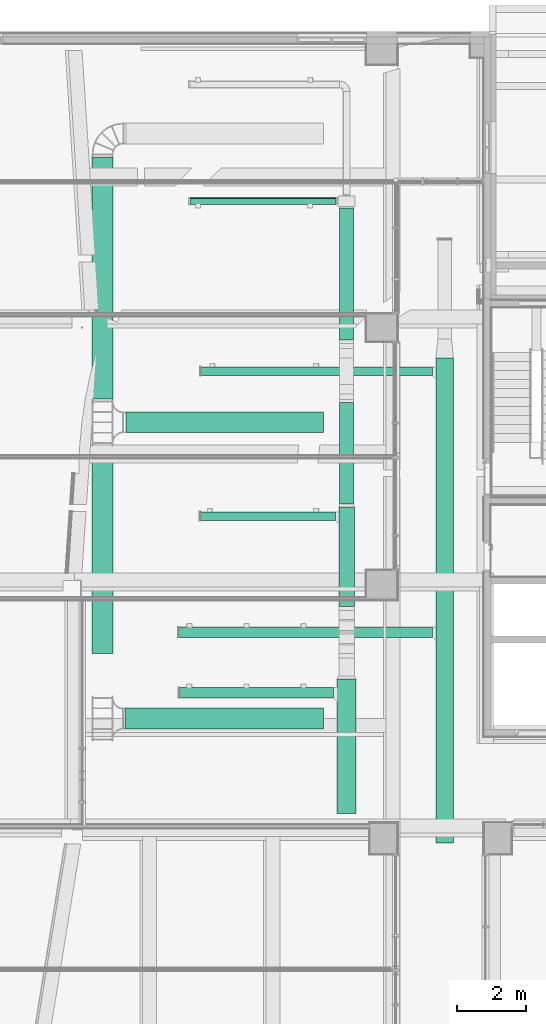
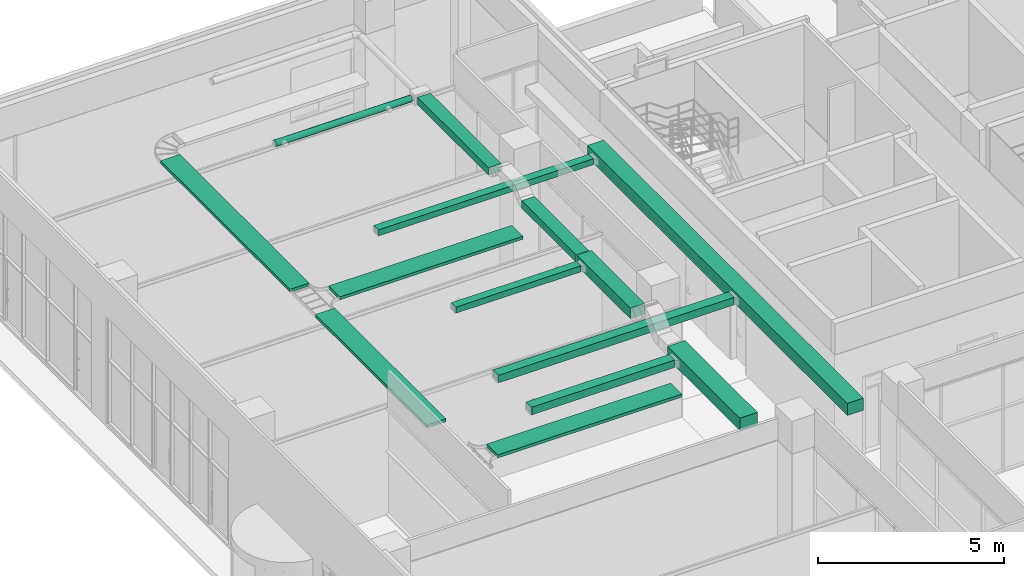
# One storey, part 86 of 100: 14 flow segments.
"""IFC2X3 building model written with IfcOpenShell, lengths in millimetres."""

from ifc_helpers import new_model, entity, si_unit, converted_unit, derived_unit, direction, frame, frame_2d, origin, origin_2d_with_axis, place, context, subcontext, project, spatial, rectangle, circle, extrude, type_object, element, save


model = new_model("IFC2X3")

# Units and contexts
model_context = context("Model", 3, precision=0.01, world=origin(), true_north=direction((6.123031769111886e-17, 1.0)))
body_context = subcontext(model_context, "Body", "Model", "MODEL_VIEW")
ifc_project = project(units=[si_unit("LENGTHUNIT", "METRE", prefix="MILLI"), si_unit("AREAUNIT", "SQUARE_METRE"), si_unit("VOLUMEUNIT", "CUBIC_METRE"), converted_unit("PLANEANGLEUNIT", "DEGREE", entity("IfcRatioMeasure", 0.017453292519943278), si_unit("PLANEANGLEUNIT", "RADIAN"), dimensions=[0, 0, 0, 0, 0, 0, 0]), si_unit("MASSUNIT", "GRAM", prefix="KILO"), derived_unit("MASSDENSITYUNIT", [(si_unit("MASSUNIT", "GRAM", prefix="KILO"), 1), (si_unit("LENGTHUNIT", "METRE"), -3)]), derived_unit("MOMENTOFINERTIAUNIT", [(si_unit("LENGTHUNIT", "METRE"), 4)]), si_unit("TIMEUNIT", "SECOND"), si_unit("FREQUENCYUNIT", "HERTZ"), si_unit("THERMODYNAMICTEMPERATUREUNIT", "DEGREE_CELSIUS"), derived_unit("THERMALTRANSMITTANCEUNIT", [(si_unit("MASSUNIT", "GRAM", prefix="KILO"), 1), (si_unit("THERMODYNAMICTEMPERATUREUNIT", "KELVIN"), -1), (si_unit("TIMEUNIT", "SECOND"), -3)]), derived_unit("VOLUMETRICFLOWRATEUNIT", [(si_unit("LENGTHUNIT", "METRE"), 3), (si_unit("TIMEUNIT", "SECOND"), -1)]), derived_unit("MASSFLOWRATEUNIT", [(si_unit("MASSUNIT", "GRAM", prefix="KILO"), 1), (si_unit("TIMEUNIT", "SECOND"), -1)]), derived_unit("ROTATIONALFREQUENCYUNIT", [(si_unit("TIMEUNIT", "SECOND"), -1)]), si_unit("ELECTRICCURRENTUNIT", "AMPERE"), si_unit("ELECTRICVOLTAGEUNIT", "VOLT"), si_unit("POWERUNIT", "WATT"), si_unit("FORCEUNIT", "NEWTON", prefix="KILO"), si_unit("ILLUMINANCEUNIT", "LUX"), si_unit("LUMINOUSFLUXUNIT", "LUMEN"), si_unit("LUMINOUSINTENSITYUNIT", "CANDELA"), derived_unit("USERDEFINED", [(si_unit("MASSUNIT", "GRAM", prefix="KILO"), -1), (si_unit("LENGTHUNIT", "METRE"), -2), (si_unit("TIMEUNIT", "SECOND"), 3), (si_unit("LUMINOUSFLUXUNIT", "LUMEN"), 1)]), derived_unit("SOUNDPOWERUNIT", [(si_unit("MASSUNIT", "GRAM", prefix="KILO"), 1), (si_unit("LENGTHUNIT", "METRE"), 2), (si_unit("TIMEUNIT", "SECOND"), -3)]), derived_unit("SOUNDPRESSUREUNIT", [(si_unit("MASSUNIT", "GRAM", prefix="KILO"), 1), (si_unit("LENGTHUNIT", "METRE"), -1), (si_unit("TIMEUNIT", "SECOND"), -2)]), derived_unit("LINEARVELOCITYUNIT", [(si_unit("LENGTHUNIT", "METRE"), 1), (si_unit("TIMEUNIT", "SECOND"), -1)]), si_unit("PRESSUREUNIT", "PASCAL"), derived_unit("USERDEFINED", [(si_unit("LENGTHUNIT", "METRE"), -2), (si_unit("MASSUNIT", "GRAM", prefix="KILO"), 1), (si_unit("TIMEUNIT", "SECOND"), -2)]), derived_unit("LINEARFORCEUNIT", [(si_unit("MASSUNIT", "GRAM", prefix="KILO"), 1), (si_unit("LENGTHUNIT", "METRE"), 1), (si_unit("TIMEUNIT", "SECOND"), -2), (si_unit("LENGTHUNIT", "METRE"), -1)]), derived_unit("PLANARFORCEUNIT", [(si_unit("MASSUNIT", "GRAM", prefix="KILO"), 1), (si_unit("LENGTHUNIT", "METRE"), 1), (si_unit("TIMEUNIT", "SECOND"), -2), (si_unit("LENGTHUNIT", "METRE"), -2)])], contexts=[model_context])

# Site, building, storey
site_placement = place(None, frame((-14167.972527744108, -657.2125860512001, 0.0)))
site = spatial("IfcSite", under=ifc_project, at=site_placement, Name="Default", CompositionType="ELEMENT")
building_placement = place(site_placement, origin())
building = spatial("IfcBuilding", under=site, at=building_placement, Name="Sample Building", CompositionType="ELEMENT")
storey_placement = place(building_placement, origin())
storey = spatial("IfcBuildingStorey", under=building, at=storey_placement, Name="지상 1층", CompositionType="ELEMENT", Elevation=0.0)

# Flow segments
duct_segment_type_1 = type_object("IfcDuctSegmentType", Name="직사각형 덕트:SA", PredefinedType="NOTDEFINED")
flow_segment_1_placement = place(storey_placement, origin())
element("IfcFlowSegment", 1, at=flow_segment_1_placement, inside=storey, type_object=duct_segment_type_1, Name="직사각형 덕트:SA", ObjectType="직사각형 덕트:SA", context=body_context, shape_type="SweptSolid", body=[
    extrude(rectangle(XDim=13992.423454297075, YDim=499.999999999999, at=frame_2d((9.094947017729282e-13, 2.1742607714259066e-12), x_axis=(1.0, 0.0))), frame((28932.150815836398, 19482.716559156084, 3980.0), z_axis=(0.0, 0.0, 1.0), x_axis=(0.0, 1.0, 0.0)), (0.0, 0.0, 1.0), 400.0),
])
flow_segment_2_placement = place(storey_placement, origin())
element("IfcFlowSegment", 2, at=flow_segment_2_placement, inside=storey, type_object=duct_segment_type_1, Name="직사각형 덕트:SA", ObjectType="직사각형 덕트:SA", context=body_context, shape_type="SweptSolid", body=[
    extrude(rectangle(XDim=7323.843194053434, YDim=299.9999999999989, at=origin_2d_with_axis()), frame((24920.229218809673, 18565.840365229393, 4055.0), z_axis=(0.0, 0.0, 1.0), x_axis=(-1.0, 0.0, 0.0)), (0.0, 0.0, 1.0), 250.00000000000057),
])
flow_segment_3_placement = place(storey_placement, origin())
element("IfcFlowSegment", 3, at=flow_segment_3_placement, inside=storey, type_object=duct_segment_type_1, Name="직사각형 덕트:SA", ObjectType="직사각형 덕트:SA", context=body_context, shape_type="SweptSolid", body=[
    extrude(rectangle(XDim=6687.500691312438, YDim=249.9999999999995, at=origin_2d_with_axis()), frame((25238.40047018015, 26102.051180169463, 4080.0), z_axis=(0.0, 0.0, 1.0), x_axis=(-1.0, 0.0, 0.0)), (0.0, 0.0, 1.0), 200.0),
])
duct_segment_type_2 = type_object("IfcDuctSegmentType", Name="직사각형 덕트:RA", PredefinedType="NOTDEFINED")
flow_segment_4_placement = place(storey_placement, origin())
element("IfcFlowSegment", 4, at=flow_segment_4_placement, inside=storey, type_object=duct_segment_type_2, Name="직사각형 덕트:RA", ObjectType="직사각형 덕트:RA", context=body_context, shape_type="SweptSolid", body=[
    extrude(rectangle(XDim=3892.4234542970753, YDim=550.0000000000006, at=frame_2d((-1.0231815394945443e-12, -2.1600499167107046e-12), x_axis=(1.0, 0.0))), frame((26099.510782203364, 15277.891987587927, 3980.0), z_axis=(0.0, 0.0, 1.0), x_axis=(0.0, 1.0, 0.0)), (0.0, 0.0, 1.0), 400.0),
])
flow_segment_5_placement = place(storey_placement, origin())
element("IfcFlowSegment", 5, at=flow_segment_5_placement, inside=storey, type_object=duct_segment_type_2, Name="직사각형 덕트:RA", ObjectType="직사각형 덕트:RA", context=body_context, shape_type="SweptSolid", body=[
    extrude(rectangle(XDim=2874.089844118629, YDim=450.00000000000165, at=frame_2d((0.0, 2.1600499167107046e-12), x_axis=(1.0, 0.0))), frame((26099.51078220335, 20748.990145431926, 4005.0), z_axis=(0.0, 0.0, 1.0), x_axis=(0.0, 1.0, 0.0)), (0.0, 0.0, 1.0), 349.9999999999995),
])
flow_segment_6_placement = place(storey_placement, origin())
element("IfcFlowSegment", 6, at=flow_segment_6_placement, inside=storey, type_object=duct_segment_type_2, Name="직사각형 덕트:RA", ObjectType="직사각형 덕트:RA", context=body_context, shape_type="SweptSolid", body=[
    extrude(rectangle(XDim=3815.282108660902, YDim=400.0, at=origin_2d_with_axis()), frame((26099.510782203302, 28905.65919739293, 4055.0), z_axis=(0.0, 0.0, 1.0), x_axis=(0.0, 1.0, 0.0)), (0.0, 0.0, 1.0), 249.9999999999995),
])
flow_segment_7_placement = place(storey_placement, origin())
element("IfcFlowSegment", 7, at=flow_segment_7_placement, inside=storey, type_object=duct_segment_type_2, Name="직사각형 덕트:RA", ObjectType="직사각형 덕트:RA", context=body_context, shape_type="SweptSolid", body=[
    extrude(rectangle(XDim=4441.203160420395, YDim=299.9999999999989, at=origin_2d_with_axis()), frame((23503.909201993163, 16819.497029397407, 4055.0), z_axis=(0.0, 0.0, 1.0), x_axis=(-1.0, 0.0, 0.0)), (0.0, 0.0, 1.0), 249.9999999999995),
])
flow_segment_8_placement = place(storey_placement, origin())
element("IfcFlowSegment", 8, at=flow_segment_8_placement, inside=storey, type_object=duct_segment_type_2, Name="직사각형 덕트:RA", ObjectType="직사각형 덕트:RA", context=body_context, shape_type="SweptSolid", body=[
    extrude(rectangle(XDim=3892.3599663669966, YDim=249.9999999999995, at=frame_2d((0.0, 2.1671553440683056e-12), x_axis=(1.0, 0.0))), frame((23828.33079901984, 21915.8624365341, 4080.0), z_axis=(0.0, 0.0, 1.0), x_axis=(-1.0, 0.0, 0.0)), (0.0, 0.0, 1.0), 200.0),
])
flow_segment_9_placement = place(storey_placement, origin())
element("IfcFlowSegment", 9, at=flow_segment_9_placement, inside=storey, type_object=duct_segment_type_2, Name="직사각형 덕트:RA", ObjectType="직사각형 덕트:RA", context=body_context, shape_type="SweptSolid", body=[
    extrude(rectangle(XDim=2933.4466094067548, YDim=400.0, at=frame_2d((-2.1600499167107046e-12, 0.0), x_axis=(1.0, 0.0))), frame((26099.510782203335, 23739.36091257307, 4055.0), z_axis=(0.0, 0.0, 1.0), x_axis=(0.0, 1.0, 0.0)), (0.0, 0.0, 1.0), 249.9999999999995),
])
duct_segment_type_3 = type_object("IfcDuctSegmentType", Name="원형 덕트:RA", PredefinedType="NOTDEFINED")
flow_segment_10_placement = place(storey_placement, origin())
element("IfcFlowSegment", 10, at=flow_segment_10_placement, inside=storey, type_object=duct_segment_type_3, Name="원형 덕트:RA", ObjectType="원형 덕트:RA", context=body_context, shape_type="SweptSolid", body=[
    extrude(circle(Radius=100.0, at=frame_2d((8.662937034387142e-12, 0.0), x_axis=(1.0, 0.0))), frame((21572.762519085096, 31013.300251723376, 4180.0), z_axis=(1.0, 0.0, 0.0), x_axis=(0.0, 1.0, 0.0)), (0.0, 0.0, 1.0), 4226.748263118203),
])
cable_carrier_segment_type = type_object("IfcCableCarrierSegmentType", Name="부속이 있는 케이블 트레이:Ladder Cable Tray", PredefinedType="CABLETRAYSEGMENT")
flow_segment_11_placement = place(storey_placement, origin())
element("IfcFlowSegment", 11, at=flow_segment_11_placement, inside=storey, type_object=cable_carrier_segment_type, Name="부속이 있는 케이블 트레이:Ladder Cable Tray", ObjectType="부속이 있는 케이블 트레이:Ladder Cable Tray", context=body_context, shape_type="SweptSolid", body=[
    extrude(rectangle(XDim=6975.7928327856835, YDim=599.9999999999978, at=frame_2d((-4.320099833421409e-12, 0.0), x_axis=(1.0, 0.0))), frame((19055.729758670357, 28796.824702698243, 3730.0), z_axis=(0.0, 0.0, 1.0), x_axis=(0.0, 1.0, 0.0)), (0.0, 0.0, 1.0), 100.00000000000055),
])
flow_segment_12_placement = place(storey_placement, origin())
element("IfcFlowSegment", 12, at=flow_segment_12_placement, inside=storey, type_object=cable_carrier_segment_type, Name="부속이 있는 케이블 트레이:Ladder Cable Tray", ObjectType="부속이 있는 케이블 트레이:Ladder Cable Tray", context=body_context, shape_type="SweptSolid", body=[
    extrude(rectangle(XDim=5699.171141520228, YDim=600.0000000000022, at=frame_2d((2.2737367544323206e-12, 0.0), x_axis=(1.0, 0.0))), frame((22585.31532943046, 24628.928286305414, 3730.0)), (0.0, 0.0, 1.0), 100.0),
])
flow_segment_13_placement = place(storey_placement, origin())
element("IfcFlowSegment", 13, at=flow_segment_13_placement, inside=storey, type_object=cable_carrier_segment_type, Name="부속이 있는 케이블 트레이:Ladder Cable Tray", ObjectType="부속이 있는 케이블 트레이:Ladder Cable Tray", context=body_context, shape_type="SweptSolid", body=[
    extrude(rectangle(XDim=6000.000000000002, YDim=599.9999999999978, at=frame_2d((1.1368683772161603e-12, 1.0800249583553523e-12), x_axis=(1.0, 0.0))), frame((19055.729758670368, 20948.928286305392, 3730.0), z_axis=(0.0, 0.0, 1.0), x_axis=(0.0, -1.0, 0.0)), (0.0, 0.0, 1.0), 100.0),
])
flow_segment_14_placement = place(storey_placement, origin())
element("IfcFlowSegment", 14, at=flow_segment_14_placement, inside=storey, type_object=cable_carrier_segment_type, Name="부속이 있는 케이블 트레이:Ladder Cable Tray", ObjectType="부속이 있는 케이블 트레이:Ladder Cable Tray", context=body_context, shape_type="SweptSolid", body=[
    extrude(rectangle(XDim=5729.171141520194, YDim=599.9999999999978, at=frame_2d((-2.0463630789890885e-12, -1.0800249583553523e-12), x_axis=(1.0, 0.0))), frame((22570.315329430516, 16074.103714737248, 3730.0)), (0.0, 0.0, 1.0), 100.00000000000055),
])

save(model, "model.ifc")
